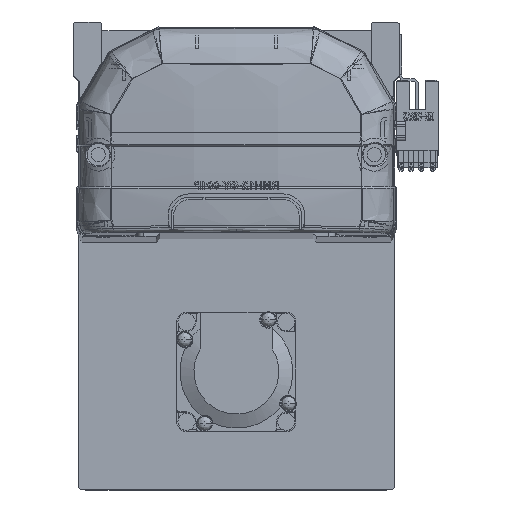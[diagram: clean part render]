
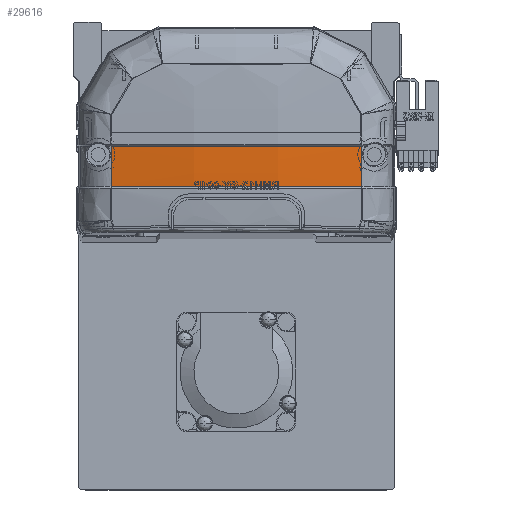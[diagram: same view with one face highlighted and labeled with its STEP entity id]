
A CAD part, top view. The second image highlights one B-rep face of the part: STEP entity #29616.
In plain terms, the highlighted free-form (B-spline) face has degree [3, 3] with [4, 4] control points.
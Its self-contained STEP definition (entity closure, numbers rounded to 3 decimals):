
#2181 = CARTESIAN_POINT ( 'NONE',  ( 40.461, 15.757, -5.8 ) ) ;
#2450 = VERTEX_POINT ( 'NONE', #31493 ) ;
#3464 = CARTESIAN_POINT ( 'NONE',  ( -39.985, 15.83, -5.879 ) ) ;
#3888 = ORIENTED_EDGE ( 'NONE', *, *, #7188, .T. ) ;
#6399 = CARTESIAN_POINT ( 'NONE',  ( -13.598, 19.918, -10.302 ) ) ;
#6583 = CARTESIAN_POINT ( 'NONE',  ( -40.461, 20.111, -6.066 ) ) ;
#6792 = CARTESIAN_POINT ( 'NONE',  ( 40.461, 24.47, -6.231 ) ) ;
#6889 = FACE_OUTER_BOUND ( 'NONE', #39895, .T. ) ;
#7188 = EDGE_CURVE ( 'NONE', #54620, #37041, #58425, .T. ) ;
#8199 = VERTEX_POINT ( 'NONE', #13949 ) ;
#10196 = CARTESIAN_POINT ( 'NONE',  ( -33.365, 15.83, -6.848 ) ) ;
#10611 = CARTESIAN_POINT ( 'NONE',  ( -6.692, 15.83, -8.984 ) ) ;
#10801 = CARTESIAN_POINT ( 'NONE',  ( -39.985, 15.83, -5.879 ) ) ;
#11406 = CARTESIAN_POINT ( 'NONE',  ( -40.461, 15.757, -5.8 ) ) ;
#11582 = ORIENTED_EDGE ( 'NONE', *, *, #31622, .T. ) ;
#11790 = CARTESIAN_POINT ( 'NONE',  ( -13.373, 28.707, -9.468 ) ) ;
#13949 = CARTESIAN_POINT ( 'NONE',  ( 39.985, 15.83, -5.879 ) ) ;
#15197 = CARTESIAN_POINT ( 'NONE',  ( -26.721, 15.83, -7.624 ) ) ;
#20028 = CARTESIAN_POINT ( 'NONE',  ( -39.966, 24.412, -6.306 ) ) ;
#20806 = CARTESIAN_POINT ( 'NONE',  ( 13.598, 28.769, -10.535 ) ) ;
#22917 = CARTESIAN_POINT ( 'NONE',  ( 39.966, 24.413, -6.306 ) ) ;
#24278 = CARTESIAN_POINT ( 'NONE',  ( 13.38, 15.83, -8.984 ) ) ;
#24995 = B_SPLINE_CURVE_WITH_KNOTS ( 'NONE', 3,
 ( #54588, #27147, #22917, #45939 ),
 .UNSPECIFIED., .F., .F.,
 ( 4, 4 ),
 ( 0., 1. ),
 .UNSPECIFIED. ) ;
#25636 = CARTESIAN_POINT ( 'NONE',  ( -39.963, 28.706, -6.372 ) ) ;
#25787 = EDGE_CURVE ( 'NONE', #54620, #2450, #47712, .T. ) ;
#26010 = CARTESIAN_POINT ( 'NONE',  ( 13.375, 28.707, -9.468 ) ) ;
#26994 = ORIENTED_EDGE ( 'NONE', *, *, #30704, .F. ) ;
#27147 = CARTESIAN_POINT ( 'NONE',  ( 39.973, 20.12, -6.142 ) ) ;
#28288 = CARTESIAN_POINT ( 'NONE',  ( 26.761, 15.83, -7.945 ) ) ;
#29250 = CARTESIAN_POINT ( 'NONE',  ( -39.963, 28.706, -6.372 ) ) ;
#29616 = ADVANCED_FACE ( 'NONE', ( #6889 ), #35042, .F. ) ;
#30704 = EDGE_CURVE ( 'NONE', #8199, #37041, #52241, .T. ) ;
#30785 = CARTESIAN_POINT ( 'NONE',  ( -26.748, 28.706, -8.432 ) ) ;
#31493 = CARTESIAN_POINT ( 'NONE',  ( 39.963, 28.706, -6.372 ) ) ;
#31622 = EDGE_CURVE ( 'NONE', #8199, #2450, #24995, .T. ) ;
#34060 = CARTESIAN_POINT ( 'NONE',  ( 40.461, 28.832, -6.296 ) ) ;
#34242 = CARTESIAN_POINT ( 'NONE',  ( -39.963, 28.706, -6.372 ) ) ;
#34251 = CARTESIAN_POINT ( 'NONE',  ( 13.598, 15.499, -10.032 ) ) ;
#35042 =( BOUNDED_SURFACE ( )  B_SPLINE_SURFACE ( 3, 3, ( 
 ( #2181, #52914, #6792, #34060 ),
 ( #34251, #47659, #38672, #20806 ),
 ( #38856, #6399, #48050, #57534 ),
 ( #11406, #6583, #43476, #56924 ) ),
 .UNSPECIFIED., .F., .F., .F. ) 
 B_SPLINE_SURFACE_WITH_KNOTS ( ( 4, 4 ),
 ( 4, 4 ),
 ( 0., 1. ),
 ( 0., 1. ),
 .UNSPECIFIED. ) 
 GEOMETRIC_REPRESENTATION_ITEM ( )  RATIONAL_B_SPLINE_SURFACE ( (
 ( 1., 1., 1., 1.),
 ( 0.992, 0.992, 0.992, 0.992),
 ( 0.992, 0.992, 0.992, 0.992),
 ( 1., 1., 1., 1.) ) ) 
 REPRESENTATION_ITEM ( '' )  SURFACE ( )  );
#37041 = VERTEX_POINT ( 'NONE', #3464 ) ;
#38672 = CARTESIAN_POINT ( 'NONE',  ( 13.598, 24.342, -10.47 ) ) ;
#38856 = CARTESIAN_POINT ( 'NONE',  ( -13.598, 15.499, -10.032 ) ) ;
#39895 = EDGE_LOOP ( 'NONE', ( #11582, #47874, #3888, #26994 ) ) ;
#41897 = CARTESIAN_POINT ( 'NONE',  ( 39.985, 15.83, -5.879 ) ) ;
#42684 = CARTESIAN_POINT ( 'NONE',  ( -13.384, 15.83, -8.724 ) ) ;
#43476 = CARTESIAN_POINT ( 'NONE',  ( -40.461, 24.47, -6.231 ) ) ;
#45939 = CARTESIAN_POINT ( 'NONE',  ( 39.963, 28.706, -6.372 ) ) ;
#46474 = CARTESIAN_POINT ( 'NONE',  ( -23.389, 15.83, -7.947 ) ) ;
#47245 = CARTESIAN_POINT ( 'NONE',  ( -36.679, 15.83, -6.395 ) ) ;
#47659 = CARTESIAN_POINT ( 'NONE',  ( 13.598, 19.918, -10.302 ) ) ;
#47712 = B_SPLINE_CURVE_WITH_KNOTS ( 'NONE', 3,
 ( #25636, #30785, #11790, #26010, #58138, #53688 ),
 .UNSPECIFIED., .F., .F.,
 ( 4, 2, 4 ),
 ( 0., 0.5, 1. ),
 .UNSPECIFIED. ) ;
#47874 = ORIENTED_EDGE ( 'NONE', *, *, #25787, .F. ) ;
#48050 = CARTESIAN_POINT ( 'NONE',  ( -13.598, 24.342, -10.47 ) ) ;
#51912 = CARTESIAN_POINT ( 'NONE',  ( -39.985, 15.83, -5.879 ) ) ;
#52241 = B_SPLINE_CURVE_WITH_KNOTS ( 'NONE', 3,
 ( #41897, #28288, #24278, #10611, #42684, #46474, #15197, #10196, #47245, #51912 ),
 .UNSPECIFIED., .F., .F.,
 ( 4, 2, 2, 2, 4 ),
 ( 0., 0.04, 0.06, 0.07, 0.08 ),
 .UNSPECIFIED. ) ;
#52914 = CARTESIAN_POINT ( 'NONE',  ( 40.461, 20.111, -6.066 ) ) ;
#53688 = CARTESIAN_POINT ( 'NONE',  ( 39.963, 28.706, -6.372 ) ) ;
#54588 = CARTESIAN_POINT ( 'NONE',  ( 39.985, 15.83, -5.879 ) ) ;
#54620 = VERTEX_POINT ( 'NONE', #29250 ) ;
#56924 = CARTESIAN_POINT ( 'NONE',  ( -40.461, 28.832, -6.296 ) ) ;
#57330 = CARTESIAN_POINT ( 'NONE',  ( -39.973, 20.118, -6.142 ) ) ;
#57534 = CARTESIAN_POINT ( 'NONE',  ( -13.598, 28.769, -10.535 ) ) ;
#58138 = CARTESIAN_POINT ( 'NONE',  ( 26.749, 28.706, -8.432 ) ) ;
#58425 = B_SPLINE_CURVE_WITH_KNOTS ( 'NONE', 3,
 ( #34242, #20028, #57330, #10801 ),
 .UNSPECIFIED., .F., .F.,
 ( 4, 4 ),
 ( 0., 1. ),
 .UNSPECIFIED. ) ;
